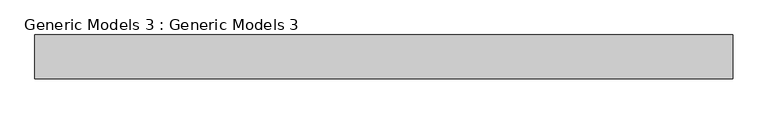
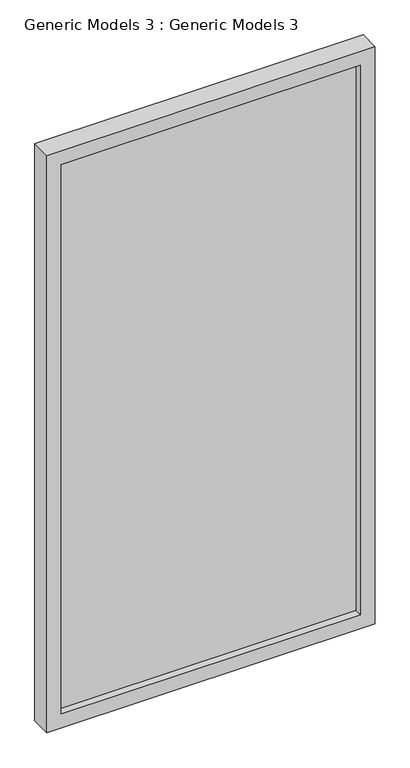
"""IFC4 building model written with IfcOpenShell, lengths in millimetres: proxy geometry, Generic Models 3 : Generic Models 3."""

from ifc_helpers import new_model, si_unit, frame, origin, place, context, project, spatial, polyline, outline, extrude, source, transform, mapped, element, save


def generic_models_3_generic_models_3_6bc678b5(model_context):
    return source(origin(), model_context, "Body", "SweptSolid", [
        extrude(outline(polyline([(-9910.1539512, -3824.0449025), (-10927.8516447, -3824.0449025), (-10927.8516447, -3793.2921331), (-9910.1539512, -3793.2921331), (-9910.1539512, -3824.0449025)])), frame((0.0, 0.0, 3873.9), z_axis=(0.0, 0.0, 1.0), x_axis=(1.0, 0.0, 0.0)), (0.0, 0.0, 1.0), 1976.1),
        extrude(outline(polyline([(3823.9, -9860.1539512), (5900.0, -9860.1539512), (5900.0, -10977.8516447), (3823.9, -10977.8516447), (3823.9, -9860.1539512)]), holes=[polyline([(5850.0, -9910.1539512), (3873.9, -9910.1539512), (3873.9, -10927.8516447), (5850.0, -10927.8516447), (5850.0, -9910.1539512)])]), frame((0.0, -3849.4449025, 0.0), z_axis=(0.0, 1.0, 0.0), x_axis=(0.0, 0.0, 1.0)), (0.0, 0.0, 1.0), 69.85),
    ])


if __name__ == "__main__":
    model = new_model("IFC4")
    model_context = context("Model", 3, world=origin())
    ifc_project = project(units=[si_unit("LENGTHUNIT", "METRE", prefix="MILLI")], contexts=[model_context])
    site = spatial("IfcSite", under=ifc_project)
    building = spatial("IfcBuilding", under=site)
    placement = place(None, origin())
    generic_models_3_generic_models_3_shape = generic_models_3_generic_models_3_6bc678b5(model_context)
    element("IfcBuildingElementProxy", 1, Name="Generic Models 3 : Generic Models 3", ObjectType="Generic Models 3 : Generic Models 3", at=placement, inside=building, context=model_context, shape_type="MappedRepresentation", body=[
        mapped(generic_models_3_generic_models_3_shape, transform((0.0, 0.0, 0.0), x_axis=(1.0, 0.0, 0.0), y_axis=(0.0, 1.0, 0.0), z_axis=(0.0, 0.0, 1.0))),
    ])
    save(model, "model.ifc")
